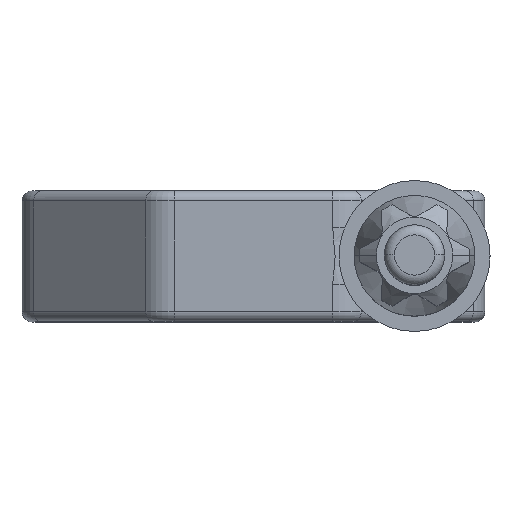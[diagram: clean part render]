
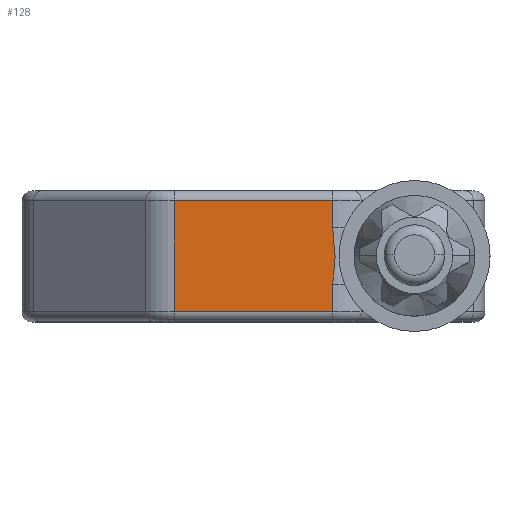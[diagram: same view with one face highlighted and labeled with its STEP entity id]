
A CAD part, top view. The second image highlights one B-rep face of the part: STEP entity #128.
In plain terms, the highlighted planar face has unit normal (0, 0, 1).
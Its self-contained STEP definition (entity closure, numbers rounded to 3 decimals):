
#128 = ADVANCED_FACE ( 'NONE', ( #4132 ), #943, .F. ) ;
#215 = VECTOR ( 'NONE', #3314, 1000. ) ;
#253 = CARTESIAN_POINT ( 'NONE',  ( -4.042, 0.932, 11.5 ) ) ;
#295 = VECTOR ( 'NONE', #4275, 1000. ) ;
#519 = CARTESIAN_POINT ( 'NONE',  ( -11.935, -2.75, 11.5 ) ) ;
#530 = EDGE_CURVE ( 'NONE', #3961, #5134, #901, .T. ) ;
#623 = CARTESIAN_POINT ( 'NONE',  ( -4.065, 1.405, 11.5 ) ) ;
#670 = CARTESIAN_POINT ( 'NONE',  ( -4.065, 3.25, 11.5 ) ) ;
#901 = LINE ( 'NONE', #3678, #2863 ) ;
#943 = PLANE ( 'NONE',  #4160 ) ;
#972 = LINE ( 'NONE', #4242, #1438 ) ;
#996 = CARTESIAN_POINT ( 'NONE',  ( -12.763, -2.75, 11.5 ) ) ;
#1026 = CARTESIAN_POINT ( 'NONE',  ( -4.065, -2.75, 11.5 ) ) ;
#1052 = VECTOR ( 'NONE', #4021, 1000. ) ;
#1076 = VERTEX_POINT ( 'NONE', #3453 ) ;
#1185 = EDGE_CURVE ( 'NONE', #2088, #3243, #5168, .T. ) ;
#1287 = DIRECTION ( 'NONE',  ( -1., 0., 0. ) ) ;
#1375 = DIRECTION ( 'NONE',  ( 0., -1., 0. ) ) ;
#1438 = VECTOR ( 'NONE', #1375, 1000. ) ;
#1500 = CARTESIAN_POINT ( 'NONE',  ( -3.98, 0.464, 11.5 ) ) ;
#1790 = LINE ( 'NONE', #996, #295 ) ;
#1906 = CARTESIAN_POINT ( 'NONE',  ( -4.042, -0.937, 11.5 ) ) ;
#2020 = CARTESIAN_POINT ( 'NONE',  ( -3.981, -0.473, 11.5 ) ) ;
#2088 = VERTEX_POINT ( 'NONE', #1026 ) ;
#2194 = B_SPLINE_CURVE_WITH_KNOTS ( 'NONE', 3,
 ( #3825, #2772, #1906, #2020, #4415, #3605, #1500, #253, #3659, #5303 ),
 .UNSPECIFIED., .F., .F.,
 ( 4, 2, 2, 2, 4 ),
 ( 0., 0.001, 0.001, 0.002, 0.003 ),
 .UNSPECIFIED. ) ;
#2772 = CARTESIAN_POINT ( 'NONE',  ( -4.065, -1.171, 11.5 ) ) ;
#2829 = CARTESIAN_POINT ( 'NONE',  ( -11.935, 2.75, 11.5 ) ) ;
#2863 = VECTOR ( 'NONE', #2869, 1000. ) ;
#2869 = DIRECTION ( 'NONE',  ( 0., 1., 0. ) ) ;
#2936 = ORIENTED_EDGE ( 'NONE', *, *, #1185, .T. ) ;
#3033 = EDGE_CURVE ( 'NONE', #4555, #2088, #1790, .T. ) ;
#3173 = ORIENTED_EDGE ( 'NONE', *, *, #3430, .T. ) ;
#3243 = VERTEX_POINT ( 'NONE', #3347 ) ;
#3314 = DIRECTION ( 'NONE',  ( -1., 0., 0. ) ) ;
#3343 = LINE ( 'NONE', #2829, #215 ) ;
#3347 = CARTESIAN_POINT ( 'NONE',  ( -4.065, -1.405, 11.5 ) ) ;
#3430 = EDGE_CURVE ( 'NONE', #5134, #1076, #3343, .T. ) ;
#3453 = CARTESIAN_POINT ( 'NONE',  ( -11.935, 2.75, 11.5 ) ) ;
#3605 = CARTESIAN_POINT ( 'NONE',  ( -3.943, 0.228, 11.5 ) ) ;
#3659 = CARTESIAN_POINT ( 'NONE',  ( -4.065, 1.168, 11.5 ) ) ;
#3678 = CARTESIAN_POINT ( 'NONE',  ( -4.065, 3.25, 11.5 ) ) ;
#3825 = CARTESIAN_POINT ( 'NONE',  ( -4.065, -1.405, 11.5 ) ) ;
#3961 = VERTEX_POINT ( 'NONE', #623 ) ;
#3981 = ORIENTED_EDGE ( 'NONE', *, *, #530, .T. ) ;
#4021 = DIRECTION ( 'NONE',  ( 0., 1., 0. ) ) ;
#4132 = FACE_OUTER_BOUND ( 'NONE', #5116, .T. ) ;
#4160 = AXIS2_PLACEMENT_3D ( 'NONE', #4988, #4614, #1287 ) ;
#4242 = CARTESIAN_POINT ( 'NONE',  ( -11.935, 3.25, 11.5 ) ) ;
#4251 = ORIENTED_EDGE ( 'NONE', *, *, #5164, .T. ) ;
#4275 = DIRECTION ( 'NONE',  ( 1., 0., 0. ) ) ;
#4415 = CARTESIAN_POINT ( 'NONE',  ( -3.944, -0.241, 11.5 ) ) ;
#4492 = ORIENTED_EDGE ( 'NONE', *, *, #4550, .T. ) ;
#4550 = EDGE_CURVE ( 'NONE', #1076, #4555, #972, .T. ) ;
#4555 = VERTEX_POINT ( 'NONE', #519 ) ;
#4614 = DIRECTION ( 'NONE',  ( 0., 0., -1. ) ) ;
#4988 = CARTESIAN_POINT ( 'NONE',  ( -12.763, 3.25, 11.5 ) ) ;
#5111 = CARTESIAN_POINT ( 'NONE',  ( -4.065, 2.75, 11.5 ) ) ;
#5116 = EDGE_LOOP ( 'NONE', ( #4492, #5193, #2936, #4251, #3981, #3173 ) ) ;
#5134 = VERTEX_POINT ( 'NONE', #5111 ) ;
#5164 = EDGE_CURVE ( 'NONE', #3243, #3961, #2194, .T. ) ;
#5168 = LINE ( 'NONE', #670, #1052 ) ;
#5193 = ORIENTED_EDGE ( 'NONE', *, *, #3033, .T. ) ;
#5303 = CARTESIAN_POINT ( 'NONE',  ( -4.065, 1.405, 11.5 ) ) ;
